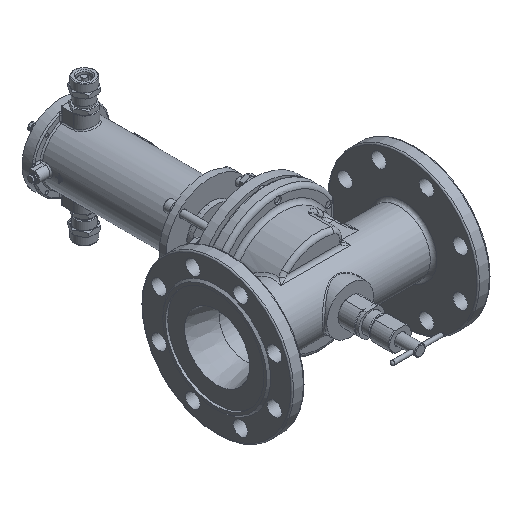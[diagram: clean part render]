
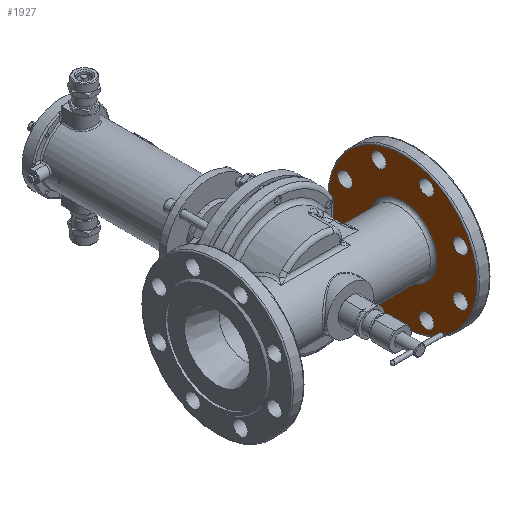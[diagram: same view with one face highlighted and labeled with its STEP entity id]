
A CAD part, isometric view. The second image highlights one B-rep face of the part: STEP entity #1927.
In plain terms, the highlighted planar face has unit normal (-1, 0, 0).
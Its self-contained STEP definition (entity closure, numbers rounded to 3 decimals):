
#1927=ADVANCED_FACE('',(#21673,#21675,#21677,#21679,#21681,#21683,#21685,#21687,
#21689,#21691),#21693,.T.);
#21673=FACE_BOUND('',#21674,.T.);
#21674=EDGE_LOOP('',(#33582));
#21675=FACE_BOUND('',#21676,.T.);
#21676=EDGE_LOOP('',(#33583));
#21677=FACE_BOUND('',#21678,.T.);
#21678=EDGE_LOOP('',(#33584));
#21679=FACE_BOUND('',#21680,.T.);
#21680=EDGE_LOOP('',(#33585));
#21681=FACE_BOUND('',#21682,.T.);
#21682=EDGE_LOOP('',(#33586));
#21683=FACE_BOUND('',#21684,.T.);
#21684=EDGE_LOOP('',(#33587));
#21685=FACE_BOUND('',#21686,.T.);
#21686=EDGE_LOOP('',(#33588));
#21687=FACE_BOUND('',#21688,.T.);
#21688=EDGE_LOOP('',(#33589));
#21689=FACE_BOUND('',#21690,.T.);
#21690=EDGE_LOOP('',(#33590));
#21691=FACE_OUTER_BOUND('',#21692,.T.);
#21692=EDGE_LOOP('',(#33591));
#21693=PLANE('',#21694);
#21694=AXIS2_PLACEMENT_3D('',#21695,#21696,#21697);
#21695=CARTESIAN_POINT('',(132.,0.,0.));
#21696=DIRECTION('',(-1.,0.,0.));
#21697=DIRECTION('',(0.,1.,0.));
#33582=ORIENTED_EDGE('',*,*,#41673,.F.);
#33583=ORIENTED_EDGE('',*,*,#41713,.T.);
#33584=ORIENTED_EDGE('',*,*,#41714,.T.);
#33585=ORIENTED_EDGE('',*,*,#41715,.T.);
#33586=ORIENTED_EDGE('',*,*,#41716,.T.);
#33587=ORIENTED_EDGE('',*,*,#41717,.T.);
#33588=ORIENTED_EDGE('',*,*,#41718,.T.);
#33589=ORIENTED_EDGE('',*,*,#41719,.T.);
#33590=ORIENTED_EDGE('',*,*,#41720,.T.);
#33591=ORIENTED_EDGE('',*,*,#41721,.T.);
#41673=EDGE_CURVE('',#50152,#50152,#50154,.T.);
#41713=EDGE_CURVE('',#50214,#50214,#50215,.T.);
#41714=EDGE_CURVE('',#50216,#50216,#50217,.T.);
#41715=EDGE_CURVE('',#50218,#50218,#50219,.T.);
#41716=EDGE_CURVE('',#50220,#50220,#50221,.T.);
#41717=EDGE_CURVE('',#50222,#50222,#50223,.T.);
#41718=EDGE_CURVE('',#50224,#50224,#50225,.T.);
#41719=EDGE_CURVE('',#50226,#50226,#50227,.T.);
#41720=EDGE_CURVE('',#50228,#50228,#50229,.T.);
#41721=EDGE_CURVE('',#50230,#50230,#50231,.T.);
#50152=VERTEX_POINT('',#79857);
#50154=CIRCLE('',#79862,52.);
#50214=VERTEX_POINT('',#80247);
#50215=CIRCLE('',#80248,11.);
#50216=VERTEX_POINT('',#80252);
#50217=CIRCLE('',#80253,11.);
#50218=VERTEX_POINT('',#80257);
#50219=CIRCLE('',#80258,11.);
#50220=VERTEX_POINT('',#80262);
#50221=CIRCLE('',#80263,11.);
#50222=VERTEX_POINT('',#80267);
#50223=CIRCLE('',#80268,11.);
#50224=VERTEX_POINT('',#80272);
#50225=CIRCLE('',#80273,11.);
#50226=VERTEX_POINT('',#80277);
#50227=CIRCLE('',#80278,11.);
#50228=VERTEX_POINT('',#80282);
#50229=CIRCLE('',#80283,11.);
#50230=VERTEX_POINT('',#80287);
#50231=CIRCLE('',#80288,113.);
#79857=CARTESIAN_POINT('',(132.,52.,0.));
#79862=AXIS2_PLACEMENT_3D('',#79863,#79864,#79865);
#79863=CARTESIAN_POINT('',(132.,0.,0.));
#79864=DIRECTION('',(-1.,0.,0.));
#79865=DIRECTION('',(0.,1.,0.));
#80247=CARTESIAN_POINT('',(132.,-36.355,-76.769));
#80248=AXIS2_PLACEMENT_3D('',#80249,#80250,#80251);
#80249=CARTESIAN_POINT('',(132.,-36.355,-87.769));
#80250=DIRECTION('',(1.,0.,0.));
#80251=DIRECTION('',(0.,0.,1.));
#80252=CARTESIAN_POINT('',(132.,-36.355,98.769));
#80253=AXIS2_PLACEMENT_3D('',#80254,#80255,#80256);
#80254=CARTESIAN_POINT('',(132.,-36.355,87.769));
#80255=DIRECTION('',(1.,0.,0.));
#80256=DIRECTION('',(0.,0.,1.));
#80257=CARTESIAN_POINT('',(132.,-87.769,47.355));
#80258=AXIS2_PLACEMENT_3D('',#80259,#80260,#80261);
#80259=CARTESIAN_POINT('',(132.,-87.769,36.355));
#80260=DIRECTION('',(1.,0.,0.));
#80261=DIRECTION('',(0.,0.,1.));
#80262=CARTESIAN_POINT('',(132.,-87.769,-25.355));
#80263=AXIS2_PLACEMENT_3D('',#80264,#80265,#80266);
#80264=CARTESIAN_POINT('',(132.,-87.769,-36.355));
#80265=DIRECTION('',(1.,0.,0.));
#80266=DIRECTION('',(0.,0.,1.));
#80267=CARTESIAN_POINT('',(132.,36.355,-76.769));
#80268=AXIS2_PLACEMENT_3D('',#80269,#80270,#80271);
#80269=CARTESIAN_POINT('',(132.,36.355,-87.769));
#80270=DIRECTION('',(1.,0.,0.));
#80271=DIRECTION('',(0.,0.,1.));
#80272=CARTESIAN_POINT('',(132.,36.355,98.769));
#80273=AXIS2_PLACEMENT_3D('',#80274,#80275,#80276);
#80274=CARTESIAN_POINT('',(132.,36.355,87.769));
#80275=DIRECTION('',(1.,0.,0.));
#80276=DIRECTION('',(0.,0.,1.));
#80277=CARTESIAN_POINT('',(132.,87.769,47.355));
#80278=AXIS2_PLACEMENT_3D('',#80279,#80280,#80281);
#80279=CARTESIAN_POINT('',(132.,87.769,36.355));
#80280=DIRECTION('',(1.,0.,0.));
#80281=DIRECTION('',(0.,0.,1.));
#80282=CARTESIAN_POINT('',(132.,87.769,-25.355));
#80283=AXIS2_PLACEMENT_3D('',#80284,#80285,#80286);
#80284=CARTESIAN_POINT('',(132.,87.769,-36.355));
#80285=DIRECTION('',(1.,0.,0.));
#80286=DIRECTION('',(0.,0.,1.));
#80287=CARTESIAN_POINT('',(132.,113.,0.));
#80288=AXIS2_PLACEMENT_3D('',#80289,#80290,#80291);
#80289=CARTESIAN_POINT('',(132.,0.,0.));
#80290=DIRECTION('',(-1.,0.,0.));
#80291=DIRECTION('',(0.,1.,0.));
